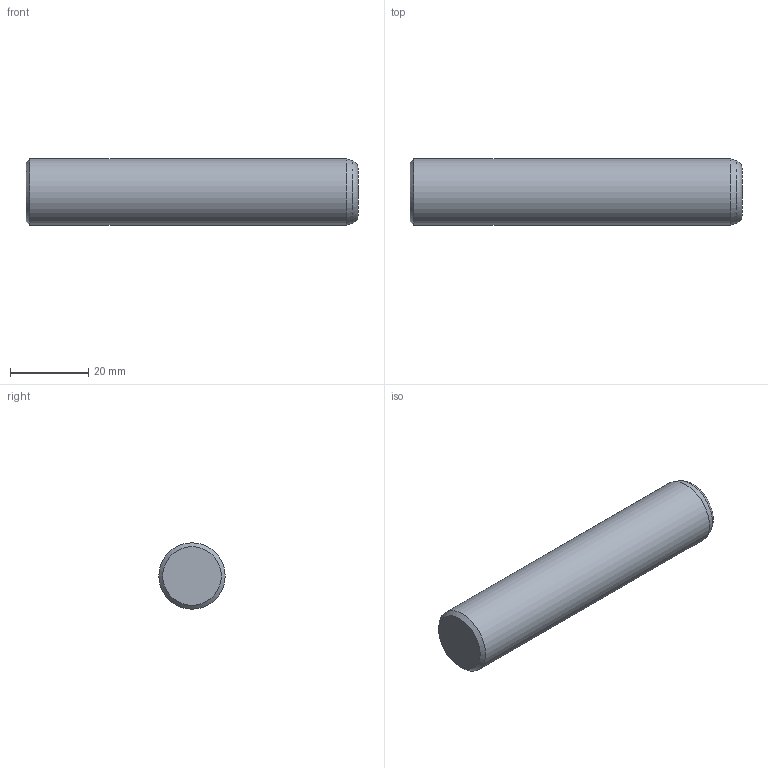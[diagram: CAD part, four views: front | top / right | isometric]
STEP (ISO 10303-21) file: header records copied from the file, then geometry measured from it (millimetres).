
FILE_DESCRIPTION(/* description */ ('Impex Ready, www.impex-ready.pl'),/* implementation_level */ '2;1');
FILE_NAME(/* name */ 'C:\Users\VIKKY\Nextcloud\SM\projekt 10 - części na stronę internetową\Pliki_3D_new\287 Słupy C4\287_C4_STEP\C41785.ipt.step',/* time_stamp */ '2021-12-20T14:21:09+01:00',/* author */ ('SM'),/* organization */ (''),/* preprocessor_version */ 'ST-DEVELOPER v18.1',/* originating_system */ 'Autodesk Inventor 2021',/* authorisation */ '');
FILE_SCHEMA (('AUTOMOTIVE_DESIGN { 1 0 10303 214 3 1 1 }'));
Length unit declared in the file: millimetre
Products named in the file (1): C41785
Bounding box: 85 x 17 x 17 mm (x, y, z)
Volume: 19173.1 mm3; surface area: 4890.3 mm2
Topology: 1 solids, 1 shells, 6 faces, 12 edges, 8 vertices
Faces by surface type: cone 2, plane 2, torus 1, cylinder 1
Full cylindrical faces by diameter (mm): 17 x1
Entity records: 239 total; most frequent: DIRECTION 35, CARTESIAN_POINT 27, ORIENTED_EDGE 24, AXIS2_PLACEMENT_3D 16, EDGE_CURVE 12, CIRCLE 9, VERTEX_POINT 8, STYLED_ITEM 7
